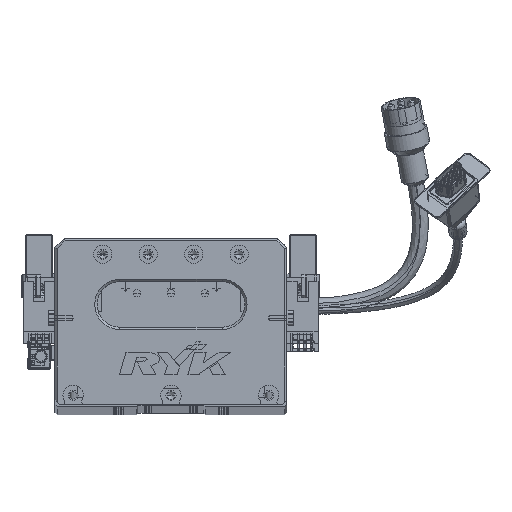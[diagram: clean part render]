
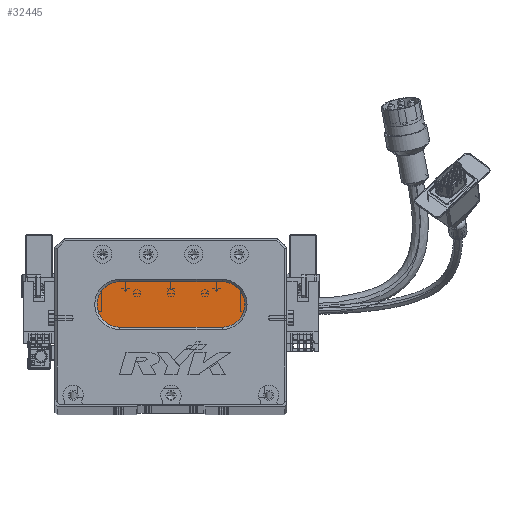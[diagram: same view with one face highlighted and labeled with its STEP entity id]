
A CAD part, top view. The second image highlights one B-rep face of the part: STEP entity #32445.
In plain terms, the highlighted planar face has unit normal (0, 0, 1) as drawn and (0, 0, -1) by its records, which use the part's own axes.
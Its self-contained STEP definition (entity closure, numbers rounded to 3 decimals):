
#649 = DIRECTION ( 'NONE',  ( 1., 0., 0. ) ) ;
#2128 = ORIENTED_EDGE ( 'NONE', *, *, #46374, .T. ) ;
#2921 = DIRECTION ( 'NONE',  ( -1., 0., 0. ) ) ;
#5812 = VECTOR ( 'NONE', #2921, 1000. ) ;
#7911 = EDGE_CURVE ( 'NONE', #31972, #47503, #17765, .T. ) ;
#7940 = FACE_OUTER_BOUND ( 'NONE', #74286, .T. ) ;
#8666 = DIRECTION ( 'NONE',  ( -1., 0., 0. ) ) ;
#8672 = LINE ( 'NONE', #59214, #5812 ) ;
#9376 = VERTEX_POINT ( 'NONE', #34881 ) ;
#14798 = AXIS2_PLACEMENT_3D ( 'NONE', #32572, #74732, #63370 ) ;
#14914 = CIRCLE ( 'NONE', #39850, 10. ) ;
#15299 = ORIENTED_EDGE ( 'NONE', *, *, #17449, .T. ) ;
#17449 = EDGE_CURVE ( 'NONE', #47503, #43129, #14914, .T. ) ;
#17765 = LINE ( 'NONE', #75066, #27484 ) ;
#21379 = CARTESIAN_POINT ( 'NONE',  ( 73.5, 44., 13. ) ) ;
#25259 = ORIENTED_EDGE ( 'NONE', *, *, #50648, .T. ) ;
#25818 = CARTESIAN_POINT ( 'NONE',  ( 28.5, 44., 13. ) ) ;
#27393 = DIRECTION ( 'NONE',  ( 0., 0., -1. ) ) ;
#27484 = VECTOR ( 'NONE', #649, 1000. ) ;
#31972 = VERTEX_POINT ( 'NONE', #67191 ) ;
#32445 = ADVANCED_FACE ( 'NONE', ( #7940 ), #64693, .T. ) ;
#32572 = CARTESIAN_POINT ( 'NONE',  ( 28.5, 44., 13. ) ) ;
#34881 = CARTESIAN_POINT ( 'NONE',  ( 18.5, 44., 13. ) ) ;
#37478 = DIRECTION ( 'NONE',  ( -1., 0., 0. ) ) ;
#39850 = AXIS2_PLACEMENT_3D ( 'NONE', #47486, #67194, #72092 ) ;
#42196 = ORIENTED_EDGE ( 'NONE', *, *, #53637, .T. ) ;
#42692 = AXIS2_PLACEMENT_3D ( 'NONE', #25818, #74506, #37478 ) ;
#43129 = VERTEX_POINT ( 'NONE', #59687 ) ;
#46374 = EDGE_CURVE ( 'NONE', #43129, #73743, #8672, .T. ) ;
#47486 = CARTESIAN_POINT ( 'NONE',  ( 73.5, 44., 13. ) ) ;
#47503 = VERTEX_POINT ( 'NONE', #78592 ) ;
#47586 = CIRCLE ( 'NONE', #42692, 10. ) ;
#50648 = EDGE_CURVE ( 'NONE', #9376, #31972, #47586, .T. ) ;
#51047 = CIRCLE ( 'NONE', #14798, 10. ) ;
#51702 = AXIS2_PLACEMENT_3D ( 'NONE', #21379, #27393, #8666 ) ;
#53637 = EDGE_CURVE ( 'NONE', #73743, #9376, #51047, .T. ) ;
#57034 = ORIENTED_EDGE ( 'NONE', *, *, #7911, .T. ) ;
#59214 = CARTESIAN_POINT ( 'NONE',  ( 73.5, 34., 13. ) ) ;
#59687 = CARTESIAN_POINT ( 'NONE',  ( 73.5, 34., 13. ) ) ;
#63370 = DIRECTION ( 'NONE',  ( -1., 0., 0. ) ) ;
#64693 = PLANE ( 'NONE',  #51702 ) ;
#67191 = CARTESIAN_POINT ( 'NONE',  ( 28.5, 54., 13. ) ) ;
#67194 = DIRECTION ( 'NONE',  ( 0., 0., -1. ) ) ;
#72092 = DIRECTION ( 'NONE',  ( -1., 0., 0. ) ) ;
#73743 = VERTEX_POINT ( 'NONE', #79104 ) ;
#74286 = EDGE_LOOP ( 'NONE', ( #15299, #2128, #42196, #25259, #57034 ) ) ;
#74506 = DIRECTION ( 'NONE',  ( 0., 0., -1. ) ) ;
#74732 = DIRECTION ( 'NONE',  ( 0., 0., -1. ) ) ;
#75066 = CARTESIAN_POINT ( 'NONE',  ( 73.5, 54., 13. ) ) ;
#78592 = CARTESIAN_POINT ( 'NONE',  ( 73.5, 54., 13. ) ) ;
#79104 = CARTESIAN_POINT ( 'NONE',  ( 28.5, 34., 13. ) ) ;
